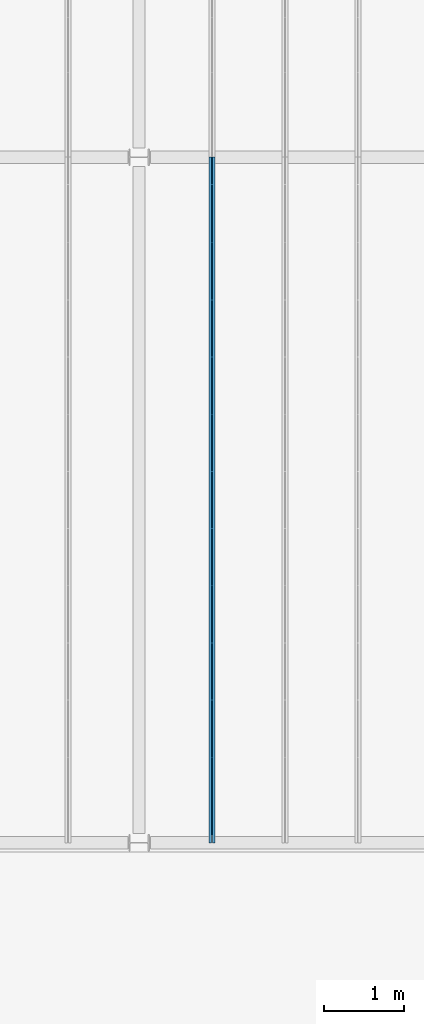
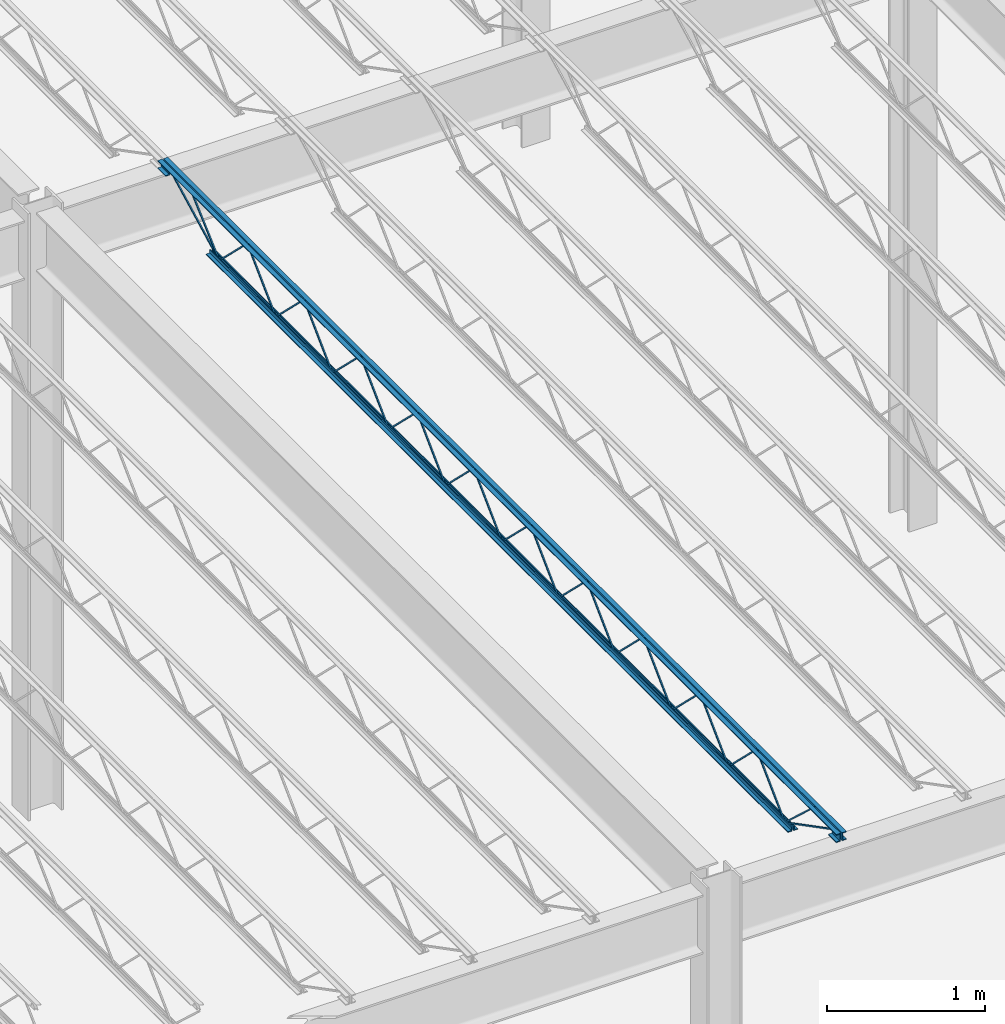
# One storey, part 40 of 119: 1 beam.
"""IFC2X3 building model written with IfcOpenShell, lengths in metres."""

from ifc_helpers import new_model, entity, si_unit, converted_unit, frame, origin, place, context, project, spatial, face_set, surface_model, element, save


model = new_model("IFC2X3")

# Units and contexts
model_context = context("Model", 3, precision=1e-09, world=origin())
plan_context = context("Plan", 3, precision=1e-09, world=origin())
ifc_project = project(units=[si_unit("LENGTHUNIT", "METRE"), si_unit("AREAUNIT", "SQUARE_METRE"), si_unit("VOLUMEUNIT", "CUBIC_METRE"), converted_unit("PLANEANGLEUNIT", "DEGREE", entity("IfcRatioMeasure", 0.01745329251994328), si_unit("PLANEANGLEUNIT", "RADIAN"), dimensions=[0, 0, 0, 0, 0, 0, 0]), si_unit("TIMEUNIT", "SECOND")], contexts=[model_context, plan_context])

# Site, building, storey
site_placement = place(None, origin())
site = spatial("IfcSite", under=ifc_project, at=site_placement, Name="Default", CompositionType="ELEMENT")
building_placement = place(site_placement, origin())
building = spatial("IfcBuilding", under=site, at=building_placement, CompositionType="ELEMENT")
storey_placement = place(building_placement, frame((0.0, 0.0, 4.570000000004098)))
storey = spatial("IfcBuildingStorey", under=building, at=storey_placement, Name="Second Floor", CompositionType="ELEMENT", Elevation=4.570000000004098)

# Beam
beam_placement = place(storey_placement, frame((-25.56532142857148, 10.04000000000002, 4.323999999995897), z_axis=(0.0, 0.0, 1.0), x_axis=(-1.0, 0.0, 0.0)))
element("IfcBeam", 1, at=beam_placement, inside=storey, Name="M_K-Series Bar Joist-Rod Web:14K1:14K1", ObjectType="M_K-Series Bar Joist-Rod Web:14K1", context=model_context, shape_type="SurfaceModel", body=[
    surface_model("IfcFaceBasedSurfaceModel", [(-0.03200000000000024, -2.141200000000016, 0.01110000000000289), (-0.04149999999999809, -2.141200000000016, 0.01110000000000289), (-0.04149999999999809, -2.141200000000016, 0.001600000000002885), (-0.03200000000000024, -2.141200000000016, 0.001600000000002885), (-0.04149999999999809, -2.139961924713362, 0.01110000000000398), (-0.03200000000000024, -2.139961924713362, 0.01110000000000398), (-0.04149999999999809, -2.136088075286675, 0.001600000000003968), (-0.04149999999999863, -1.785138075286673, 0.3449000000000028), (-0.04149999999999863, -1.782661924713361, 0.3449000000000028), (-0.04149999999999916, -1.431711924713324, 0.001600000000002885), (-0.04149999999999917, -1.426600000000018, 0.001600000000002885), (-0.04149999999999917, -1.426600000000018, 0.01110000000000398), (-0.04149999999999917, -1.427838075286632, 0.01110000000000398), (-0.04149999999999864, -1.77878807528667, 0.3544000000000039), (-0.04149999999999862, -1.78901192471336, 0.3544000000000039), (-0.03199999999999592, -2.136088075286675, 0.001600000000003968), (-0.03200000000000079, -1.785138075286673, 0.3449000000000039), (-0.03200000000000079, -1.782661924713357, 0.3449000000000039), (-0.03200000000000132, -1.431711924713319, 0.001600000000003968), (-0.03200000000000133, -1.426600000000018, 0.001600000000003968), (-0.03200000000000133, -1.426600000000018, 0.01110000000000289), (-0.03200000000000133, -1.427838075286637, 0.01110000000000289), (-0.03200000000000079, -1.778788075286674, 0.3544000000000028), (-0.03200000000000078, -1.78901192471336, 0.3544000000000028), (-0.03199999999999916, -2.855800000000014, 0.01110000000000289), (-0.04149999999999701, -2.855800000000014, 0.01110000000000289), (-0.04149999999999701, -2.855800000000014, 0.001600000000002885), (-0.03199999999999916, -2.855800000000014, 0.001600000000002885), (-0.04149999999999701, -2.854561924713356, 0.01110000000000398), (-0.03199999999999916, -2.854561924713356, 0.01110000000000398), (-0.04149999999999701, -2.850688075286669, 0.001600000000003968), (-0.04149999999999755, -2.499738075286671, 0.3449000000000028), (-0.04149999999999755, -2.497261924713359, 0.3449000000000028), (-0.04149999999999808, -2.146311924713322, 0.001600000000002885), (-0.04149999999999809, -2.141200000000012, 0.001600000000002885), (-0.04149999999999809, -2.141200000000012, 0.01110000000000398), (-0.04149999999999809, -2.142438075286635, 0.01110000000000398), (-0.04149999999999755, -2.493388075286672, 0.3544000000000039), (-0.04149999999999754, -2.503611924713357, 0.3544000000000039), (-0.03199999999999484, -2.850688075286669, 0.001600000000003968), (-0.0319999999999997, -2.499738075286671, 0.3449000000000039), (-0.0319999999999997, -2.497261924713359, 0.3449000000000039), (-0.03200000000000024, -2.146311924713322, 0.001600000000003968), (-0.03200000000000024, -2.141200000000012, 0.001600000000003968), (-0.03200000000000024, -2.141200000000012, 0.01110000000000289), (-0.03200000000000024, -2.142438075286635, 0.01110000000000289), (-0.03199999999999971, -2.493388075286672, 0.3544000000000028), (-0.0319999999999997, -2.503611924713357, 0.3544000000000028), (-0.03200000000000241, -3.570400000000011, 0.01110000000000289), (-0.04150000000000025, -3.570400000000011, 0.01110000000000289), (-0.04150000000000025, -3.570400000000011, 0.001600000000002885), (-0.03200000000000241, -3.570400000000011, 0.001600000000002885), (-0.04150000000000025, -3.569161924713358, 0.01110000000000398), (-0.03200000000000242, -3.569161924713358, 0.01110000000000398), (-0.04150000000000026, -3.565288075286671, 0.001600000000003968), (-0.04150000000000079, -3.214338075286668, 0.3449000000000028), (-0.04150000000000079, -3.211861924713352, 0.3449000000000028), (-0.04150000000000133, -2.860911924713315, 0.001600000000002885), (-0.04150000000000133, -2.855800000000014, 0.01110000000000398), (-0.04150000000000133, -2.857038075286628, 0.01110000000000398), (-0.0415000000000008, -3.207988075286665, 0.3544000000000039), (-0.04150000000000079, -3.218211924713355, 0.3544000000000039), (-0.03199999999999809, -3.565288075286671, 0.001600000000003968), (-0.03200000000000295, -3.214338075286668, 0.3449000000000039), (-0.03200000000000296, -3.211861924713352, 0.3449000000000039), (-0.03200000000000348, -2.860911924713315, 0.001600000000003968), (-0.03200000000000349, -2.855800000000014, 0.001600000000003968), (-0.03200000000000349, -2.857038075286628, 0.01110000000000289), (-0.03200000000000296, -3.207988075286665, 0.3544000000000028), (-0.03200000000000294, -3.218211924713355, 0.3544000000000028), (-0.03200000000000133, -4.285000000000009, 0.01110000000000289), (-0.04149999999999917, -4.285000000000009, 0.01110000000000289), (-0.04149999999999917, -4.285000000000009, 0.001600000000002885), (-0.03200000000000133, -4.285000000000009, 0.001600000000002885), (-0.04149999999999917, -4.283761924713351, 0.01110000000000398), (-0.03200000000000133, -4.283761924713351, 0.01110000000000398), (-0.04149999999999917, -4.279888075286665, 0.001600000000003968), (-0.0414999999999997, -3.928938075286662, 0.3449000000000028), (-0.04149999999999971, -3.926461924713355, 0.3449000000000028), (-0.04150000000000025, -3.575511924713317, 0.001600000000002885), (-0.04150000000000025, -3.570400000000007, 0.001600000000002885), (-0.04150000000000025, -3.570400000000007, 0.01110000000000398), (-0.04150000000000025, -3.57163807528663, 0.01110000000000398), (-0.04149999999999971, -3.922588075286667, 0.3544000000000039), (-0.0414999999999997, -3.932811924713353, 0.3544000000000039), (-0.031999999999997, -4.279888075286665, 0.001600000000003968), (-0.03200000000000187, -3.928938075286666, 0.3449000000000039), (-0.03200000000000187, -3.926461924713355, 0.3449000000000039), (-0.0320000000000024, -3.575511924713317, 0.001600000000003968), (-0.03200000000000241, -3.570400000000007, 0.001600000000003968), (-0.03200000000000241, -3.570400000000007, 0.01110000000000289), (-0.03200000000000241, -3.57163807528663, 0.01110000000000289), (-0.03200000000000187, -3.922588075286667, 0.3544000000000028), (-0.03200000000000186, -3.932811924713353, 0.3544000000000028), (-0.03200000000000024, -4.999600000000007, 0.01110000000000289), (-0.04149999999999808, -4.999600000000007, 0.01110000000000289), (-0.04149999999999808, -4.999600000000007, 0.001600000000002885), (-0.03200000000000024, -4.999600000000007, 0.001600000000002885), (-0.04149999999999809, -4.998361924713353, 0.01110000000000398), (-0.03200000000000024, -4.998361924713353, 0.01110000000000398), (-0.04149999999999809, -4.994488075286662, 0.001600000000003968), (-0.04149999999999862, -4.643538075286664, 0.3449000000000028), (-0.04149999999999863, -4.641061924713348, 0.3449000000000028), (-0.04149999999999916, -4.290111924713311, 0.001600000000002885), (-0.04149999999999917, -4.285000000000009, 0.01110000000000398), (-0.04149999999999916, -4.286238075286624, 0.01110000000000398), (-0.04149999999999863, -4.637188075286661, 0.3544000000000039), (-0.04149999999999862, -4.647411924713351, 0.3544000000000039), (-0.03199999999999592, -4.994488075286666, 0.001600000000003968), (-0.03200000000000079, -4.643538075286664, 0.3449000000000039), (-0.03200000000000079, -4.641061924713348, 0.3449000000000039), (-0.03200000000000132, -4.290111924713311, 0.001600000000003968), (-0.03200000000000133, -4.285000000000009, 0.001600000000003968), (-0.03200000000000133, -4.286238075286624, 0.01110000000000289), (-0.03200000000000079, -4.637188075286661, 0.3544000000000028), (-0.03200000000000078, -4.647411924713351, 0.3544000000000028), (-0.03200000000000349, -5.714200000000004, 0.01110000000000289), (-0.04150000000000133, -5.714200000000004, 0.01110000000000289), (-0.04150000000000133, -5.714200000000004, 0.001600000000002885), (-0.03200000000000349, -5.714200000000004, 0.001600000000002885), (-0.04150000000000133, -5.712961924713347, 0.01110000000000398), (-0.03200000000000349, -5.712961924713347, 0.01110000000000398), (-0.04149999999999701, -5.70908807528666, 0.001600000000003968), (-0.04149999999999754, -5.358138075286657, 0.3449000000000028), (-0.04149999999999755, -5.35566192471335, 0.3449000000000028), (-0.04149999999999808, -5.004711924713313, 0.001600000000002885), (-0.04149999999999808, -4.999600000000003, 0.001600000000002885), (-0.04150000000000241, -4.999600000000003, 0.01110000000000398), (-0.04150000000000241, -5.000838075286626, 0.01110000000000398), (-0.04150000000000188, -5.351788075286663, 0.3544000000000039), (-0.04150000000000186, -5.362011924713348, 0.3544000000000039), (-0.03199999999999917, -5.70908807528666, 0.001600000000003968), (-0.03200000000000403, -5.358138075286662, 0.3449000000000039), (-0.03200000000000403, -5.35566192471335, 0.3449000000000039), (-0.03200000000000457, -5.004711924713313, 0.001600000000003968), (-0.03200000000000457, -4.999600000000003, 0.001600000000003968), (-0.03200000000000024, -4.999600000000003, 0.01110000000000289), (-0.03200000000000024, -5.000838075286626, 0.01110000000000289), (-0.03199999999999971, -5.351788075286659, 0.3544000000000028), (-0.0319999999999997, -5.362011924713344, 0.3544000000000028), (-0.03200000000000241, -6.428799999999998, 0.01110000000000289), (-0.04150000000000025, -6.428799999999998, 0.01110000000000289), (-0.04150000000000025, -6.428799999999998, 0.001600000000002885), (-0.03200000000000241, -6.428799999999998, 0.001600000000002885), (-0.04150000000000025, -6.427561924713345, 0.01110000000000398), (-0.03200000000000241, -6.427561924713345, 0.01110000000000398), (-0.04150000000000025, -6.423688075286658, 0.001600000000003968), (-0.04150000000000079, -6.07273807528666, 0.3449000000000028), (-0.04150000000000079, -6.070261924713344, 0.3449000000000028), (-0.04150000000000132, -5.719311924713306, 0.001600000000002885), (-0.04150000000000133, -5.714200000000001, 0.001600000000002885), (-0.04150000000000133, -5.714200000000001, 0.01110000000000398), (-0.04150000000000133, -5.715438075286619, 0.01110000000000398), (-0.04150000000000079, -6.066388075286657, 0.3544000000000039), (-0.04150000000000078, -6.076611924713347, 0.3544000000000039), (-0.03199999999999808, -6.423688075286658, 0.001600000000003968), (-0.03200000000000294, -6.07273807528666, 0.3449000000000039), (-0.03200000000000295, -6.070261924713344, 0.3449000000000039), (-0.03200000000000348, -5.719311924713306, 0.001600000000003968), (-0.03200000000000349, -5.714200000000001, 0.001600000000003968), (-0.03200000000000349, -5.714200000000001, 0.01110000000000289), (-0.03200000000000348, -5.715438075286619, 0.01110000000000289), (-0.03200000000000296, -6.066388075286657, 0.3544000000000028), (-0.03200000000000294, -6.076611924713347, 0.3544000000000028), (-0.03200000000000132, -7.143400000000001, 0.01110000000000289), (-0.04149999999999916, -7.143400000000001, 0.01110000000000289), (-0.04149999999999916, -7.143400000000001, 0.001600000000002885), (-0.03200000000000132, -7.143400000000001, 0.001600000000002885), (-0.04149999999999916, -7.142161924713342, 0.01110000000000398), (-0.03200000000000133, -7.142161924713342, 0.01110000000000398), (-0.04149999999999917, -7.138288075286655, 0.001600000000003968), (-0.0414999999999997, -6.787338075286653, 0.3449000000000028), (-0.0414999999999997, -6.784861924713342, 0.3449000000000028), (-0.04150000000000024, -6.433911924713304, 0.001600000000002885), (-0.04150000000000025, -6.428799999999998, 0.01110000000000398), (-0.04150000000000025, -6.430038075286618, 0.01110000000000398), (-0.04149999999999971, -6.780988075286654, 0.3544000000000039), (-0.0414999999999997, -6.79121192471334, 0.3544000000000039), (-0.031999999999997, -7.138288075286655, 0.001600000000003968), (-0.03200000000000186, -6.787338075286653, 0.3449000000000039), (-0.03200000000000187, -6.784861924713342, 0.3449000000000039), (-0.0320000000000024, -6.433911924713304, 0.001600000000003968), (-0.03200000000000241, -6.428799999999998, 0.001600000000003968), (-0.0320000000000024, -6.430038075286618, 0.01110000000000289), (-0.03200000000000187, -6.780988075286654, 0.3544000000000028), (-0.03200000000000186, -6.79121192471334, 0.3544000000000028), (-0.03200000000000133, -1.426600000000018, 0.01109999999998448), (-0.04149999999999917, -1.426600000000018, 0.01109999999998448), (-0.04149999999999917, -1.426600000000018, 0.001599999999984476), (-0.03200000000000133, -1.426600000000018, 0.001599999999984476), (-0.04149999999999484, -1.42536192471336, 0.01109999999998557), (-0.031999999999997, -1.42536192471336, 0.01109999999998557), (-0.04149999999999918, -1.421488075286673, 0.001599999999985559), (-0.04149999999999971, -1.070538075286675, 0.3448999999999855), (-0.04149999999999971, -1.068061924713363, 0.3448999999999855), (-0.04150000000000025, -0.7171119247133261, 0.001599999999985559), (-0.04150000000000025, -0.7120000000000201, 0.001599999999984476), (-0.04150000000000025, -0.712000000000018, 0.01109999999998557), (-0.04150000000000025, -0.7132380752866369, 0.01109999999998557), (-0.04149999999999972, -1.064188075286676, 0.3543999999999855), (-0.0414999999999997, -1.074411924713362, 0.3543999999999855), (-0.031999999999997, -1.421488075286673, 0.001599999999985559), (-0.03199999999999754, -1.070538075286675, 0.3448999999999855), (-0.03199999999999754, -1.068061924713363, 0.3448999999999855), (-0.03199999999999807, -0.7171119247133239, 0.001599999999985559), (-0.03199999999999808, -0.712000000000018, 0.001599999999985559), (-0.03200000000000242, -0.7120000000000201, 0.01109999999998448), (-0.03199999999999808, -0.713238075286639, 0.01109999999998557), (-0.03199999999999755, -1.064188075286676, 0.3543999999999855), (-0.03199999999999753, -1.074411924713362, 0.3543999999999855), (-0.03200000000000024, -7.857999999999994, 0.01110000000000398), (-0.04149999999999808, -7.857999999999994, 0.01110000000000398), (-0.04149999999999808, -7.857999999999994, 0.001600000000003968), (-0.03200000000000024, -7.857999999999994, 0.001600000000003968), (-0.04149999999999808, -7.85676192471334, 0.01110000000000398), (-0.03200000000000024, -7.85676192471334, 0.01110000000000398), (-0.04149999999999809, -7.852888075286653, 0.001600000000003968), (-0.04149999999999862, -7.501938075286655, 0.3449000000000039), (-0.04149999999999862, -7.499461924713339, 0.3449000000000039), (-0.04149999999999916, -7.148511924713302, 0.001600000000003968), (-0.04149999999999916, -7.143399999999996, 0.001600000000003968), (-0.04149999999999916, -7.143399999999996, 0.01110000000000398), (-0.04149999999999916, -7.144638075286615, 0.01110000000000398), (-0.04149999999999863, -7.495588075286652, 0.3544000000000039), (-0.04149999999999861, -7.505811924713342, 0.3544000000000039), (-0.03199999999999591, -7.852888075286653, 0.001600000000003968), (-0.03200000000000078, -7.501938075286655, 0.3449000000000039), (-0.03200000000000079, -7.499461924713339, 0.3449000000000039), (-0.03200000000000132, -7.148511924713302, 0.001600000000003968), (-0.03200000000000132, -7.143399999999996, 0.001600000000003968), (-0.03200000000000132, -7.143399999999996, 0.01110000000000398), (-0.03200000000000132, -7.144638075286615, 0.01110000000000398), (-0.03200000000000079, -7.495588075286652, 0.3544000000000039), (-0.03200000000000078, -7.505811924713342, 0.3544000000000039), (-0.04150000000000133, 0.0, 0.3559999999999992), (-0.07350000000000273, 0.0, 0.3559999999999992), (-0.07350000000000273, 0.0, 0.3494999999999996), (-0.04799999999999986, 0.0, 0.3494999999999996), (-0.04799999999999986, 0.0, 0.3239999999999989), (-0.04150000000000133, 0.0, 0.3239999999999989), (-0.03200000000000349, 0.0, 0.3559999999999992), (-0.03200000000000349, 0.0, 0.3239999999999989), (-0.02550000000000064, 0.0, 0.3239999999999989), (-0.02550000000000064, 0.0, 0.3494999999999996), (0.0, 0.0, 0.3494999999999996), (0.0, 0.0, 0.3559999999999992), (-0.04149999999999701, -8.57, 0.3559999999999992), (-0.07349999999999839, -8.57, 0.3559999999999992), (-0.07349999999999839, -8.57, 0.3494999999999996), (-0.04799999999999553, -8.57, 0.3494999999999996), (-0.04799999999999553, -8.57, 0.3239999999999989), (-0.04149999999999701, -8.57, 0.3239999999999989), (-0.03199999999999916, -8.57, 0.3559999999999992), (-0.03199999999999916, -8.57, 0.3239999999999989), (-0.02549999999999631, -8.57, 0.3239999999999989), (-0.02549999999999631, -8.57, 0.3494999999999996), (0.0, -8.57, 0.3494999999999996), (0.0, -8.57, 0.3559999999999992), (-0.03199999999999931, -8.470000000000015, 0.2924999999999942), (0.0, -8.470000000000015, 0.2924999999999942), (0.0, -8.470000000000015, 0.2989999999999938), (-0.02550000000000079, -8.470000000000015, 0.2989999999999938), (-0.02550000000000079, -8.470000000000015, 0.3239999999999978), (-0.03199999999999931, -8.470000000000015, 0.3239999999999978), (-0.07349999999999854, -8.470000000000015, 0.2924999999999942), (-0.04149999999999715, -8.470000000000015, 0.2924999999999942), (-0.04149999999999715, -8.470000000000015, 0.3239999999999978), (-0.048, -8.470000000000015, 0.3239999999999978), (-0.048, -8.470000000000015, 0.2989999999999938), (-0.07349999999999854, -8.470000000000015, 0.2989999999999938), (-0.03199999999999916, -8.57, 0.2924999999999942), (0.0, -8.57, 0.2924999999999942), (0.0, -8.57, 0.2989999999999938), (-0.02550000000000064, -8.57, 0.2989999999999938), (-0.02550000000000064, -8.57, 0.3239999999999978), (-0.03199999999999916, -8.57, 0.3239999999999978), (-0.07349999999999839, -8.57, 0.2924999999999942), (-0.04149999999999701, -8.57, 0.2924999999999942), (-0.04149999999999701, -8.57, 0.3239999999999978), (-0.04799999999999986, -8.57, 0.3239999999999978), (-0.04799999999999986, -8.57, 0.2989999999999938), (-0.07349999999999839, -8.57, 0.2989999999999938), (-0.04150000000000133, 0.0, 0.2924999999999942), (-0.04150000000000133, 0.0, 0.3239999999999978), (-0.04800000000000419, 0.0, 0.3239999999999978), (-0.04800000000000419, 0.0, 0.2989999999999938), (-0.07350000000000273, 0.0, 0.2989999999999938), (-0.07350000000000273, 0.0, 0.2924999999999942), (-0.03200000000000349, 0.0, 0.2924999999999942), (0.0, 0.0, 0.2924999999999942), (0.0, 0.0, 0.2989999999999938), (-0.02550000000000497, 0.0, 0.2989999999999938), (-0.02550000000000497, 0.0, 0.3239999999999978), (-0.03200000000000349, 0.0, 0.3239999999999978), (-0.04150000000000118, -0.1000000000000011, 0.2924999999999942), (-0.04150000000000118, -0.1000000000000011, 0.3239999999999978), (-0.04800000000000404, -0.1000000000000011, 0.3239999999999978), (-0.04800000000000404, -0.1000000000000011, 0.2989999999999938), (-0.07350000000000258, -0.1000000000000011, 0.2989999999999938), (-0.07350000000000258, -0.1000000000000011, 0.2924999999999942), (-0.03200000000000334, -0.1000000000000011, 0.2924999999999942), (0.0, -0.1000000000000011, 0.2924999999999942), (0.0, -0.1000000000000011, 0.2989999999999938), (-0.02550000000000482, -0.1000000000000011, 0.2989999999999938), (-0.02550000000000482, -0.1000000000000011, 0.3239999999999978), (-0.03200000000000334, -0.1000000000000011, 0.3239999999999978), (-0.04150000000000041, -0.6119999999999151, 0.0), (-0.04150000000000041, -0.6119999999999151, 0.03199999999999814), (-0.04799999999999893, -0.6119999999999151, 0.03199999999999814), (-0.04799999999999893, -0.6119999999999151, 0.006499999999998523), (-0.0735000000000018, -0.6119999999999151, 0.006499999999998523), (-0.0735000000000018, -0.6119999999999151, 0.0), (-0.03200000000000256, -0.6119999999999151, 0.0), (0.0, -0.6119999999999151, 0.0), (0.0, -0.6119999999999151, 0.006499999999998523), (-0.02549999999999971, -0.6119999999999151, 0.006499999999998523), (-0.02549999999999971, -0.6119999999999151, 0.03199999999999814), (-0.03200000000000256, -0.6119999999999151, 0.03199999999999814), (-0.04149999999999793, -7.957999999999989, 0.0), (-0.04149999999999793, -7.957999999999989, 0.03199999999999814), (-0.04799999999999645, -7.957999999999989, 0.03199999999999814), (-0.04799999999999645, -7.957999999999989, 0.006499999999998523), (-0.07349999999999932, -7.957999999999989, 0.006499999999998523), (-0.07349999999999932, -7.957999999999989, 0.0), (-0.03200000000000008, -7.957999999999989, 0.0), (0.0, -7.957999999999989, 0.0), (0.0, -7.957999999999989, 0.006499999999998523), (-0.02549999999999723, -7.957999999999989, 0.006499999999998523), (-0.02549999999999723, -7.957999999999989, 0.03199999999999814), (-0.03200000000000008, -7.957999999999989, 0.03199999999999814), (-0.03200000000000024, -7.855811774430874, 0.01056594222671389), (-0.04149999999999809, -7.855811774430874, 0.01056594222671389), (-0.04149999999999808, -7.860188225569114, 0.002134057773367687), (-0.03200000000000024, -7.860188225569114, 0.00213405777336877), (-0.03199999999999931, -8.468840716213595, 0.3287499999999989), (-0.03199999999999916, -8.569999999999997, 0.3287499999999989), (-0.03199999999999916, -8.569999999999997, 0.3192499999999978), (-0.03199999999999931, -8.471159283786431, 0.3192499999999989), (-0.04150000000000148, -8.471159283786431, 0.3192499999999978), (-0.04149999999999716, -8.468840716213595, 0.3287499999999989), (-0.04149999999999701, -8.569999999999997, 0.3287499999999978), (-0.04149999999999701, -8.569999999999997, 0.3192499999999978), (-0.03199999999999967, -8.23525714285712, 0.3417000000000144), (-0.04149999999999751, -8.23525714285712, 0.3417000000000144), (-0.04149999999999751, -8.23525714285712, 0.3322000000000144), (-0.03199999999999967, -8.23525714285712, 0.3322000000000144), (-0.04149999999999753, -8.220724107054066, 0.3417000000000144), (-0.03199999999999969, -8.220724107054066, 0.3417000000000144), (-0.04149999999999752, -8.224390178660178, 0.3322000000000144), (-0.04149999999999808, -7.861190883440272, 0.002831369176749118), (-0.04149999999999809, -7.854809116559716, 0.009868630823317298), (-0.03199999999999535, -8.224390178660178, 0.3322000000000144), (-0.03200000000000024, -7.861190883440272, 0.002831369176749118), (-0.03200000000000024, -7.854809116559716, 0.009868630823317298), (-0.03200000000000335, -0.09781177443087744, 0.3197840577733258), (-0.03200000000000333, -0.1021882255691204, 0.328215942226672), (-0.04150000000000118, -0.1021882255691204, 0.328215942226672), (-0.04150000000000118, -0.09781177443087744, 0.3197840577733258), (-0.03200000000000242, -0.7098117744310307, 0.002134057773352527), (-0.03200000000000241, -0.7141882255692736, 0.01056594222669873), (-0.04150000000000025, -0.7141882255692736, 0.01056594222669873), (-0.04150000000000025, -0.7098117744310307, 0.002134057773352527), (-0.03200000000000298, -0.336963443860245, 0.3461600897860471), (-0.03200000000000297, -0.3434079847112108, 0.3531399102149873), (-0.04150000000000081, -0.3434079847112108, 0.3531399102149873), (-0.04150000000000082, -0.336963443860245, 0.3461600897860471), (-0.03200000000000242, -0.7087777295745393, 0.00286008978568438), (-0.03200000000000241, -0.7152222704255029, 0.009839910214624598), (-0.04150000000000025, -0.7152222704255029, 0.009839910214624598), (-0.04150000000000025, -0.7087777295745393, 0.00286008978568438)], [face_set([[[0, 1, 2, 3]], [[1, 4, 5, 0]], [[2, 6, 7, 8, 9, 10, 11, 12, 13, 14, 4, 1]], [[3, 2, 6, 15]], [[0, 3, 15, 16, 17, 18, 19, 20, 21, 22, 23, 5]], [[4, 5, 23, 14]], [[15, 16, 7, 6]], [[14, 13, 22, 23]], [[16, 7, 8, 17]], [[13, 12, 21, 22]], [[17, 8, 9, 18]], [[20, 11, 10, 19]], [[12, 11, 20, 21]], [[18, 9, 10, 19]]]), face_set([[[24, 25, 26, 27]], [[25, 28, 29, 24]], [[26, 30, 31, 32, 33, 34, 35, 36, 37, 38, 28, 25]], [[27, 26, 30, 39]], [[24, 27, 39, 40, 41, 42, 43, 44, 45, 46, 47, 29]], [[28, 29, 47, 38]], [[39, 40, 31, 30]], [[38, 37, 46, 47]], [[40, 31, 32, 41]], [[37, 36, 45, 46]], [[41, 32, 33, 42]], [[44, 35, 34, 43]], [[36, 35, 44, 45]], [[42, 33, 34, 43]]]), face_set([[[48, 49, 50, 51]], [[49, 52, 53, 48]], [[50, 54, 55, 56, 57, 26, 58, 59, 60, 61, 52, 49]], [[51, 50, 54, 62]], [[48, 51, 62, 63, 64, 65, 66, 24, 67, 68, 69, 53]], [[52, 53, 69, 61]], [[62, 63, 55, 54]], [[61, 60, 68, 69]], [[63, 55, 56, 64]], [[60, 59, 67, 68]], [[64, 56, 57, 65]], [[24, 58, 26, 66]], [[59, 58, 24, 67]], [[65, 57, 26, 66]]]), face_set([[[70, 71, 72, 73]], [[71, 74, 75, 70]], [[72, 76, 77, 78, 79, 80, 81, 82, 83, 84, 74, 71]], [[73, 72, 76, 85]], [[70, 73, 85, 86, 87, 88, 89, 90, 91, 92, 93, 75]], [[74, 75, 93, 84]], [[85, 86, 77, 76]], [[84, 83, 92, 93]], [[86, 77, 78, 87]], [[83, 82, 91, 92]], [[87, 78, 79, 88]], [[90, 81, 80, 89]], [[82, 81, 90, 91]], [[88, 79, 80, 89]]]), face_set([[[94, 95, 96, 97]], [[95, 98, 99, 94]], [[96, 100, 101, 102, 103, 72, 104, 105, 106, 107, 98, 95]], [[97, 96, 100, 108]], [[94, 97, 108, 109, 110, 111, 112, 70, 113, 114, 115, 99]], [[98, 99, 115, 107]], [[108, 109, 101, 100]], [[107, 106, 114, 115]], [[109, 101, 102, 110]], [[106, 105, 113, 114]], [[110, 102, 103, 111]], [[70, 104, 72, 112]], [[105, 104, 70, 113]], [[111, 103, 72, 112]]]), face_set([[[116, 117, 118, 119]], [[117, 120, 121, 116]], [[118, 122, 123, 124, 125, 126, 127, 128, 129, 130, 120, 117]], [[119, 118, 122, 131]], [[116, 119, 131, 132, 133, 134, 135, 136, 137, 138, 139, 121]], [[120, 121, 139, 130]], [[131, 132, 123, 122]], [[130, 129, 138, 139]], [[132, 123, 124, 133]], [[129, 128, 137, 138]], [[133, 124, 125, 134]], [[136, 127, 126, 135]], [[128, 127, 136, 137]], [[134, 125, 126, 135]]]), face_set([[[140, 141, 142, 143]], [[141, 144, 145, 140]], [[142, 146, 147, 148, 149, 150, 151, 152, 153, 154, 144, 141]], [[143, 142, 146, 155]], [[140, 143, 155, 156, 157, 158, 159, 160, 161, 162, 163, 145]], [[144, 145, 163, 154]], [[155, 156, 147, 146]], [[154, 153, 162, 163]], [[156, 147, 148, 157]], [[153, 152, 161, 162]], [[157, 148, 149, 158]], [[160, 151, 150, 159]], [[152, 151, 160, 161]], [[158, 149, 150, 159]]]), face_set([[[164, 165, 166, 167]], [[165, 168, 169, 164]], [[166, 170, 171, 172, 173, 142, 174, 175, 176, 177, 168, 165]], [[167, 166, 170, 178]], [[164, 167, 178, 179, 180, 181, 182, 140, 183, 184, 185, 169]], [[168, 169, 185, 177]], [[178, 179, 171, 170]], [[177, 176, 184, 185]], [[179, 171, 172, 180]], [[176, 175, 183, 184]], [[180, 172, 173, 181]], [[140, 174, 142, 182]], [[175, 174, 140, 183]], [[181, 173, 142, 182]]]), face_set([[[186, 187, 188, 189]], [[187, 190, 191, 186]], [[188, 192, 193, 194, 195, 196, 197, 198, 199, 200, 190, 187]], [[189, 188, 192, 201]], [[186, 189, 201, 202, 203, 204, 205, 206, 207, 208, 209, 191]], [[190, 191, 209, 200]], [[201, 202, 193, 192]], [[200, 199, 208, 209]], [[202, 193, 194, 203]], [[199, 198, 207, 208]], [[203, 194, 195, 204]], [[206, 197, 196, 205]], [[198, 197, 206, 207]], [[204, 195, 196, 205]]]), face_set([[[210, 211, 212, 213]], [[211, 214, 215, 210]], [[212, 216, 217, 218, 219, 220, 221, 222, 223, 224, 214, 211]], [[213, 212, 216, 225]], [[210, 213, 225, 226, 227, 228, 229, 230, 231, 232, 233, 215]], [[214, 215, 233, 224]], [[225, 226, 217, 216]], [[224, 223, 232, 233]], [[226, 217, 218, 227]], [[223, 222, 231, 232]], [[227, 218, 219, 228]], [[230, 221, 220, 229]], [[222, 221, 230, 231]], [[228, 219, 220, 229]]]), face_set([[[234, 235, 236, 237, 238, 239]], [[240, 241, 242, 243, 244, 245]], [[246, 247, 248, 249, 250, 251]], [[252, 253, 254, 255, 256, 257]], [[239, 234, 246, 251]], [[238, 239, 251, 250]], [[237, 249, 250, 238]], [[236, 237, 249, 248]], [[235, 247, 248, 236]], [[234, 246, 247, 235]], [[245, 257, 252, 240]], [[244, 245, 257, 256]], [[243, 244, 256, 255]], [[242, 243, 255, 254]], [[241, 242, 254, 253]], [[240, 252, 253, 241]]]), face_set([[[258, 259, 260, 261, 262, 263]], [[264, 265, 266, 267, 268, 269]], [[270, 271, 272, 273, 274, 275]], [[276, 277, 278, 279, 280, 281]], [[263, 275, 270, 258]], [[262, 274, 275, 263]], [[261, 262, 274, 273]], [[260, 272, 273, 261]], [[259, 260, 272, 271]], [[258, 259, 271, 270]], [[269, 281, 276, 264]], [[268, 280, 281, 269]], [[267, 279, 280, 268]], [[266, 278, 279, 267]], [[265, 266, 278, 277]], [[264, 265, 277, 276]]]), face_set([[[282, 283, 284, 285, 286, 287]], [[288, 289, 290, 291, 292, 293]], [[294, 295, 296, 297, 298, 299]], [[300, 301, 302, 303, 304, 305]], [[287, 282, 294, 299]], [[286, 298, 299, 287]], [[285, 297, 298, 286]], [[284, 296, 297, 285]], [[283, 295, 296, 284]], [[282, 283, 295, 294]], [[293, 305, 300, 288]], [[292, 304, 305, 293]], [[291, 292, 304, 303]], [[290, 302, 303, 291]], [[289, 290, 302, 301]], [[288, 289, 301, 300]]]), face_set([[[306, 307, 308, 309, 310, 311]], [[312, 313, 314, 315, 316, 317]], [[318, 319, 320, 321, 322, 323]], [[324, 325, 326, 327, 328, 329]], [[311, 306, 318, 323]], [[310, 322, 323, 311]], [[309, 321, 322, 310]], [[308, 320, 321, 309]], [[307, 319, 320, 308]], [[306, 307, 319, 318]], [[317, 329, 324, 312]], [[316, 328, 329, 317]], [[315, 316, 328, 327]], [[314, 326, 327, 315]], [[313, 314, 326, 325]], [[312, 313, 325, 324]]]), face_set([[[330, 331, 332, 333]], [[333, 330, 334, 335, 336, 337]], [[332, 333, 337, 338]], [[331, 339, 340, 341, 338, 332]], [[330, 334, 339, 331]], [[335, 340, 341, 336]], [[338, 337, 336, 341]], [[334, 335, 340, 339]]]), face_set([[[342, 343, 344, 345]], [[343, 346, 347, 342]], [[344, 348, 349, 350, 346, 343]], [[345, 344, 348, 351]], [[342, 345, 351, 352, 353, 347]], [[353, 350, 349, 352]], [[346, 350, 353, 347]], [[351, 348, 349, 352]]]), face_set([[[354, 355, 356, 357]], [[358, 359, 360, 361]], [[357, 354, 358, 361]], [[356, 360, 361, 357]], [[355, 359, 360, 356]], [[354, 355, 359, 358]]]), face_set([[[362, 363, 364, 365]], [[366, 367, 368, 369]], [[365, 369, 366, 362]], [[364, 368, 369, 365]], [[363, 364, 368, 367]], [[362, 363, 367, 366]]])]),
])

save(model, "model.ifc")
